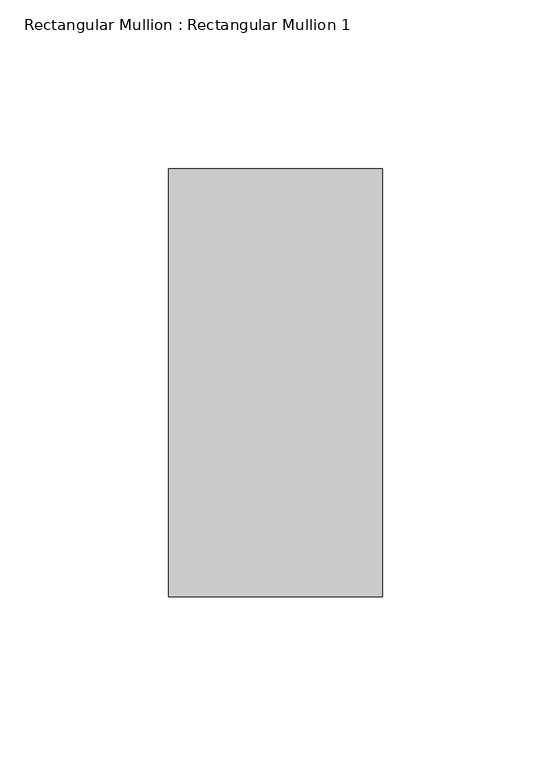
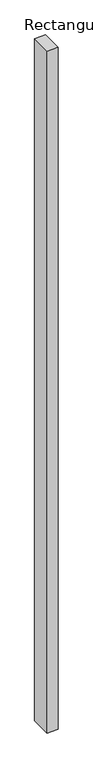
"""IFC4 building model written with IfcOpenShell, lengths in millimetres: member geometry, Rectangular Mullion : Rectangular Mullion 1."""

from ifc_helpers import new_model, si_unit, frame, origin, place, context, project, spatial, polyline, outline, extrude, source, transform, mapped, element, save


def rectangular_mullion_rectangular_mullion_1_c42b9823(model_context):
    return source(origin(), model_context, "Body", "SweptSolid", [
        extrude(outline(polyline([(0.0, 63.5), (0.0, -63.5), (-63.5, -63.5), (-63.5, 63.5), (0.0, 63.5)])), frame((0.0, 0.0, -4200.0), z_axis=(0.0, 0.0, 1.0), x_axis=(1.0, 0.0, 0.0)), (0.0, 0.0, 1.0), 4200.0),
    ])


if __name__ == "__main__":
    model = new_model("IFC4")
    model_context = context("Model", 3, world=origin())
    ifc_project = project(units=[si_unit("LENGTHUNIT", "METRE", prefix="MILLI")], contexts=[model_context])
    site = spatial("IfcSite", under=ifc_project)
    building = spatial("IfcBuilding", under=site)
    placement = place(None, origin())
    rectangular_mullion_rectangular_mullion_1_shape = rectangular_mullion_rectangular_mullion_1_c42b9823(model_context)
    element("IfcMember", 1, ObjectType="Rectangular Mullion : Rectangular Mullion 1", at=placement, inside=building, context=model_context, shape_type="MappedRepresentation", body=[
        mapped(rectangular_mullion_rectangular_mullion_1_shape, transform((0.0, 0.0, 0.0), x_axis=(1.0, 0.0, 0.0), y_axis=(0.0, 1.0, 0.0), z_axis=(0.0, 0.0, 1.0))),
    ])
    save(model, "model.ifc")
